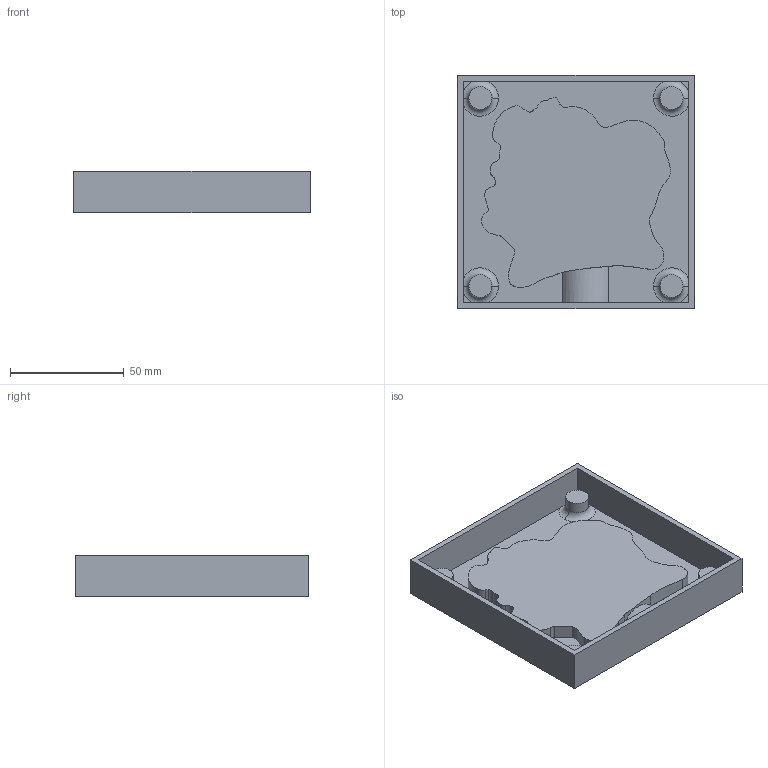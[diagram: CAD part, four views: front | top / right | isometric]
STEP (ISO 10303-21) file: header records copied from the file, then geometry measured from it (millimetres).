
FILE_DESCRIPTION (( 'STEP AP214' ), '1' );
FILE_NAME ('carteMold.STEP', '2026-05-20T12:40:08', ( '' ), ( '' ), 'SwSTEP 2.0', 'SolidWorks 2026', '' );
FILE_SCHEMA (( 'AUTOMOTIVE_DESIGN' ));
Length unit declared in the file: millimetre
Products named in the file (1): carteMold
Bounding box: 103.74 x 102.3 x 18 mm (x, y, z)
Volume: 71313.6 mm3; surface area: 37514.6 mm2
Topology: 1 solids, 1 shells, 88 faces, 247 edges, 162 vertices
Faces by surface type: bspline 46, plane 20, cylinder 14, torus 8
Entity records: 3187 total; most frequent: CARTESIAN_POINT 1198, ORIENTED_EDGE 494, DIRECTION 274, EDGE_CURVE 247, VERTEX_POINT 162, B_SPLINE_CURVE_WITH_KNOTS 106, VECTOR 94, LINE 94
